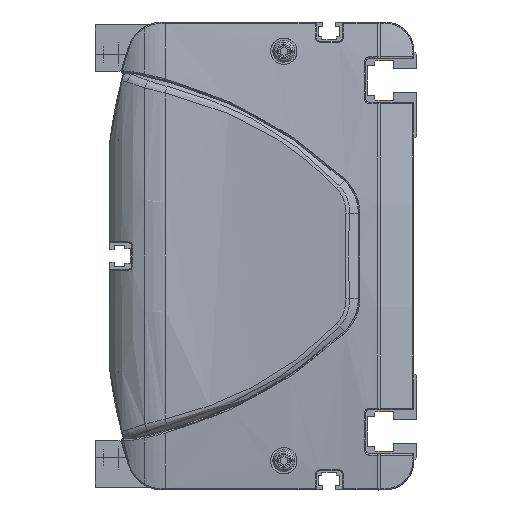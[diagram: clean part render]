
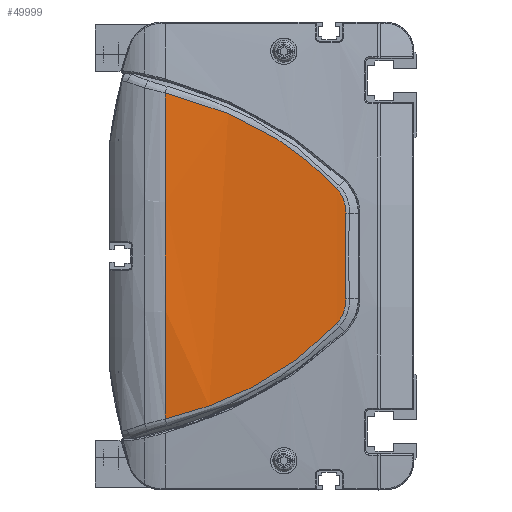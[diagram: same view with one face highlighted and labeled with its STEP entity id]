
A CAD part, left-side view. The second image highlights one B-rep face of the part: STEP entity #49999.
In plain terms, the highlighted cylindrical face has radius 600 mm (diameter 1200 mm), a partial arc.
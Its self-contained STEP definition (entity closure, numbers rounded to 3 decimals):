
#45029=CARTESIAN_POINT('',(-12.406,86.,
55.736));
#45030=CARTESIAN_POINT('',(-12.529,80.495,
54.41));
#45031=CARTESIAN_POINT('',(-12.828,69.636,
51.114));
#45032=CARTESIAN_POINT('',(-13.389,54.079,
44.179));
#45033=CARTESIAN_POINT('',(-14.01,39.709,
34.979));
#45034=CARTESIAN_POINT('',(-14.395,31.353,
27.243));
#45035=CARTESIAN_POINT('',(-14.555,27.451,
23.113));
#45037=CARTESIAN_POINT('',(-14.555,27.451,
23.113));
#45038=CARTESIAN_POINT('',(-14.641,25.336,
20.875));
#45039=CARTESIAN_POINT('',(-14.745,24.202,
17.745));
#45040=CARTESIAN_POINT('',(-14.821,24.351,
14.67));
#45042=CARTESIAN_POINT('',(-14.821,24.351,
14.67));
#45043=CARTESIAN_POINT('',(-14.9,24.51,
11.413));
#45044=CARTESIAN_POINT('',(-15.007,24.721,
4.895));
#45045=CARTESIAN_POINT('',(-15.007,24.721,
-4.895));
#45046=CARTESIAN_POINT('',(-14.9,24.51,
-11.413));
#45047=CARTESIAN_POINT('',(-14.821,24.351,
-14.67));
#45049=CARTESIAN_POINT('',(-14.821,24.351,
-14.67));
#45050=CARTESIAN_POINT('',(-14.745,24.202,
-17.745));
#45051=CARTESIAN_POINT('',(-14.641,25.337,
-20.876));
#45052=CARTESIAN_POINT('',(-14.555,27.451,
-23.113));
#45054=CARTESIAN_POINT('',(-14.555,27.451,
-23.113));
#45055=CARTESIAN_POINT('',(-14.395,31.353,
-27.243));
#45056=CARTESIAN_POINT('',(-14.01,39.709,
-34.979));
#45057=CARTESIAN_POINT('',(-13.389,54.079,
-44.179));
#45058=CARTESIAN_POINT('',(-12.828,69.636,
-51.114));
#45059=CARTESIAN_POINT('',(-12.529,80.495,
-54.41));
#45060=CARTESIAN_POINT('',(-12.406,86.,
-55.736));
#45062=CARTESIAN_POINT('',(585.,86.,0.));
#45063=DIRECTION('',(0.,1.,0.));
#45064=DIRECTION('',(-0.996,0.,-0.093));
#45065=AXIS2_PLACEMENT_3D('',#45062,#45063,#45064);
#45078=CARTESIAN_POINT('',(-12.406,86.,
55.736));
#45585=VERTEX_POINT('',#45078);
#45586=CARTESIAN_POINT('',(-12.406,86.,
-55.736));
#45587=VERTEX_POINT('',#45586);
#45639=VERTEX_POINT('',#45035);
#45640=VERTEX_POINT('',#45040);
#45641=VERTEX_POINT('',#45047);
#45642=VERTEX_POINT('',#45052);
#49981=CARTESIAN_POINT('',(585.,87.45,0.));
#49982=DIRECTION('',(0.,-1.,0.));
#49983=DIRECTION('',(0.,0.,-1.));
#49984=AXIS2_PLACEMENT_3D('',#49981,#49982,#49983);
#49985=CYLINDRICAL_SURFACE('',#49984,600.);
#49987=ORIENTED_EDGE('',*,*,#49986,.T.);
#49989=ORIENTED_EDGE('',*,*,#49988,.T.);
#49990=ORIENTED_EDGE('',*,*,#49971,.T.);
#49992=ORIENTED_EDGE('',*,*,#49991,.T.);
#49994=ORIENTED_EDGE('',*,*,#49993,.T.);
#49996=ORIENTED_EDGE('',*,*,#49995,.T.);
#49997=EDGE_LOOP('',(#49987,#49989,#49990,#49992,#49994,#49996));
#49998=FACE_OUTER_BOUND('',#49997,.F.);
#49999=ADVANCED_FACE('',(#49998),#49985,.T.);
#45036=B_SPLINE_CURVE_WITH_KNOTS('',3,(#45029,#45030,#45031,#45032,#45033,
#45034,#45035),.UNSPECIFIED.,.F.,.F.,(4,1,1,1,4),(0.,0.25,0.5,0.75,
1.),.UNSPECIFIED.);
#45041=B_SPLINE_CURVE_WITH_KNOTS('',3,(#45037,#45038,#45039,#45040),
.UNSPECIFIED.,.F.,.F.,(4,4),(0.,1.),.UNSPECIFIED.);
#45048=B_SPLINE_CURVE_WITH_KNOTS('',3,(#45042,#45043,#45044,#45045,#45046,
#45047),.UNSPECIFIED.,.F.,.F.,(4,1,1,4),(0.,0.333,
0.667,1.),.UNSPECIFIED.);
#45053=B_SPLINE_CURVE_WITH_KNOTS('',3,(#45049,#45050,#45051,#45052),
.UNSPECIFIED.,.F.,.F.,(4,4),(0.,1.),.UNSPECIFIED.);
#45061=B_SPLINE_CURVE_WITH_KNOTS('',3,(#45054,#45055,#45056,#45057,#45058,
#45059,#45060),.UNSPECIFIED.,.F.,.F.,(4,1,1,1,4),(0.,0.25,0.5,0.75,
1.),.UNSPECIFIED.);
#45066=CIRCLE('',#45065,600.);
#49971=EDGE_CURVE('',#45640,#45641,#45048,.T.);
#49986=EDGE_CURVE('',#45585,#45639,#45036,.T.);
#49988=EDGE_CURVE('',#45639,#45640,#45041,.T.);
#49991=EDGE_CURVE('',#45641,#45642,#45053,.T.);
#49993=EDGE_CURVE('',#45642,#45587,#45061,.T.);
#49995=EDGE_CURVE('',#45587,#45585,#45066,.T.);
